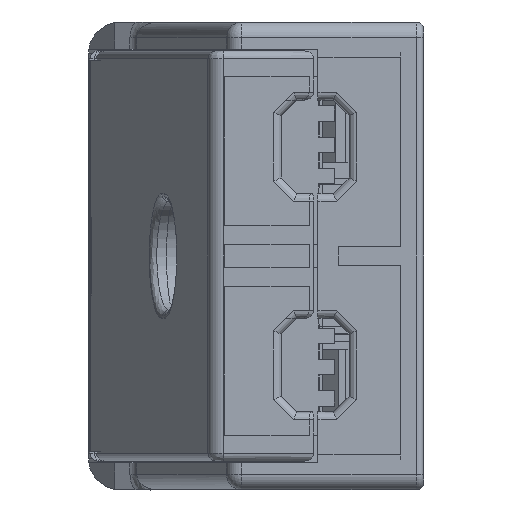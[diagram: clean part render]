
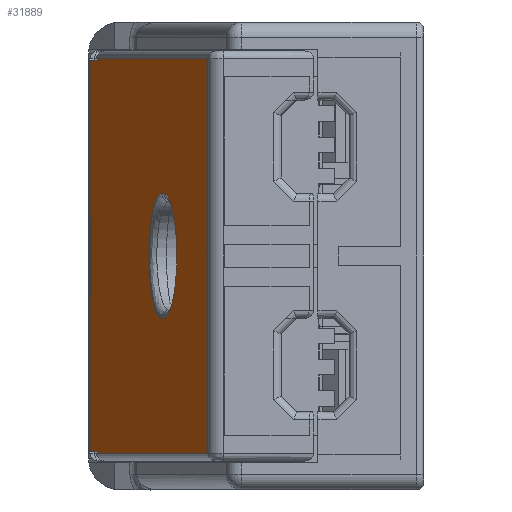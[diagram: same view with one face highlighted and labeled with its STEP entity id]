
A CAD part, left-side view. The second image highlights one B-rep face of the part: STEP entity #31889.
In plain terms, the highlighted planar face has unit normal (-0.196, 0.981, 0) as drawn and (0.201, 0.98, 0) by its records, which use the part's own axes.
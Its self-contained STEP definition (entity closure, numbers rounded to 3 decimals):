
#27551=DIRECTION('',(-0.98,0.201,0.));
#27552=VECTOR('',#27551,0.817);
#27553=CARTESIAN_POINT('',(4.95,6.536,4.));
#27554=LINE('',#27553,#27552);
#27555=CARTESIAN_POINT('',(4.95,6.536,
-4.));
#27556=CARTESIAN_POINT('',(5.217,6.481,
-4.));
#27557=CARTESIAN_POINT('',(5.738,6.374,
-3.948));
#27558=CARTESIAN_POINT('',(6.507,6.216,
-3.713));
#27559=CARTESIAN_POINT('',(7.205,6.073,
-3.335));
#27560=CARTESIAN_POINT('',(7.815,5.948,
-2.829));
#27561=CARTESIAN_POINT('',(8.31,5.847,
-2.217));
#27562=CARTESIAN_POINT('',(8.676,5.772,
-1.524));
#27563=CARTESIAN_POINT('',(8.9,5.726,
-0.776));
#27564=CARTESIAN_POINT('',(8.976,5.71,
0.));
#27565=CARTESIAN_POINT('',(8.9,5.726,
0.776));
#27566=CARTESIAN_POINT('',(8.676,5.772,1.524));
#27567=CARTESIAN_POINT('',(8.31,5.847,2.217));
#27568=CARTESIAN_POINT('',(7.815,5.948,2.829));
#27569=CARTESIAN_POINT('',(7.205,6.073,3.335));
#27570=CARTESIAN_POINT('',(6.508,6.216,3.713));
#27571=CARTESIAN_POINT('',(5.738,6.374,3.948));
#27572=CARTESIAN_POINT('',(5.217,6.481,4.));
#27573=CARTESIAN_POINT('',(4.95,6.536,4.));
#27575=DIRECTION('',(0.98,-0.201,0.));
#27576=VECTOR('',#27575,0.817);
#27577=CARTESIAN_POINT('',(4.15,6.7,
-4.));
#27578=LINE('',#27577,#27576);
#27579=CARTESIAN_POINT('',(4.15,6.7,4.));
#27580=CARTESIAN_POINT('',(3.884,6.754,4.));
#27581=CARTESIAN_POINT('',(3.363,6.861,3.948));
#27582=CARTESIAN_POINT('',(2.593,7.019,3.713));
#27583=CARTESIAN_POINT('',(1.896,7.162,3.335));
#27584=CARTESIAN_POINT('',(1.286,7.287,2.829));
#27585=CARTESIAN_POINT('',(0.791,7.389,
2.217));
#27586=CARTESIAN_POINT('',(0.425,7.464,
1.524));
#27587=CARTESIAN_POINT('',(0.201,7.51,
0.776));
#27588=CARTESIAN_POINT('',(0.125,7.526,
0.));
#27589=CARTESIAN_POINT('',(0.201,7.51,
-0.776));
#27590=CARTESIAN_POINT('',(0.425,7.464,
-1.524));
#27591=CARTESIAN_POINT('',(0.791,7.389,
-2.217));
#27592=CARTESIAN_POINT('',(1.286,7.287,
-2.829));
#27593=CARTESIAN_POINT('',(1.896,7.162,
-3.335));
#27594=CARTESIAN_POINT('',(2.593,7.019,
-3.713));
#27595=CARTESIAN_POINT('',(3.363,6.861,
-3.948));
#27596=CARTESIAN_POINT('',(3.884,6.754,
-4.));
#27597=CARTESIAN_POINT('',(4.15,6.7,
-4.));
#27599=DIRECTION('',(0.98,-0.201,0.));
#27600=VECTOR('',#27599,36.411);
#27601=CARTESIAN_POINT('',(-16.718,10.981,-12.65));
#27602=LINE('',#27601,#27600);
#27603=DIRECTION('',(0.,0.,1.));
#27604=VECTOR('',#27603,25.3);
#27605=CARTESIAN_POINT('',(18.951,3.664,-12.65));
#27606=LINE('',#27605,#27604);
#27607=DIRECTION('',(0.98,-0.201,0.));
#27608=VECTOR('',#27607,36.411);
#27609=CARTESIAN_POINT('',(-16.718,10.981,12.65));
#27610=LINE('',#27609,#27608);
#27611=DIRECTION('',(0.,0.,-1.));
#27612=VECTOR('',#27611,0.1);
#27613=CARTESIAN_POINT('',(-16.718,10.981,12.65));
#27614=LINE('',#27613,#27612);
#27615=DIRECTION('',(0.98,-0.201,0.));
#27616=VECTOR('',#27615,2.047);
#27617=CARTESIAN_POINT('',(-18.723,11.392,12.55));
#27618=LINE('',#27617,#27616);
#27619=DIRECTION('',(0.,0.,-1.));
#27620=VECTOR('',#27619,25.1);
#27621=CARTESIAN_POINT('',(-18.723,11.392,12.55));
#27622=LINE('',#27621,#27620);
#27623=DIRECTION('',(0.98,-0.201,0.));
#27624=VECTOR('',#27623,2.047);
#27625=CARTESIAN_POINT('',(-18.723,11.392,-12.55));
#27626=LINE('',#27625,#27624);
#27627=DIRECTION('',(0.,0.,1.));
#27628=VECTOR('',#27627,0.1);
#27629=CARTESIAN_POINT('',(-16.718,10.981,-12.65));
#27630=LINE('',#27629,#27628);
#29579=CARTESIAN_POINT('',(4.95,6.536,4.));
#29580=CARTESIAN_POINT('',(4.15,6.7,4.));
#29581=VERTEX_POINT('',#29579);
#29582=VERTEX_POINT('',#29580);
#29587=VERTEX_POINT('',#27597);
#29589=CARTESIAN_POINT('',(4.95,6.536,
-4.));
#29590=VERTEX_POINT('',#29589);
#29807=CARTESIAN_POINT('',(-18.723,11.392,-12.55));
#29808=CARTESIAN_POINT('',(-16.718,10.981,-12.55));
#29809=VERTEX_POINT('',#29807);
#29810=VERTEX_POINT('',#29808);
#29825=CARTESIAN_POINT('',(-16.718,10.981,12.55));
#29827=VERTEX_POINT('',#29825);
#29847=CARTESIAN_POINT('',(-18.723,11.392,12.55));
#29848=VERTEX_POINT('',#29847);
#29995=CARTESIAN_POINT('',(-16.718,10.981,-12.65));
#29997=VERTEX_POINT('',#29995);
#30001=CARTESIAN_POINT('',(18.951,3.664,-12.65));
#30002=VERTEX_POINT('',#30001);
#30042=CARTESIAN_POINT('',(-16.718,10.981,12.65));
#30044=VERTEX_POINT('',#30042);
#30045=CARTESIAN_POINT('',(18.951,3.664,12.65));
#30046=VERTEX_POINT('',#30045);
#31864=CARTESIAN_POINT('',(-19.25,11.5,13.15));
#31865=DIRECTION('',(-0.201,-0.98,0.));
#31866=DIRECTION('',(0.98,-0.201,0.));
#31867=AXIS2_PLACEMENT_3D('',#31864,#31865,#31866);
#31868=PLANE('',#31867);
#31869=ORIENTED_EDGE('',*,*,#31859,.T.);
#31870=ORIENTED_EDGE('',*,*,#31594,.T.);
#31871=ORIENTED_EDGE('',*,*,#31657,.F.);
#31872=ORIENTED_EDGE('',*,*,#31675,.T.);
#31873=ORIENTED_EDGE('',*,*,#31722,.F.);
#31874=ORIENTED_EDGE('',*,*,#30485,.T.);
#31875=ORIENTED_EDGE('',*,*,#31773,.T.);
#31876=ORIENTED_EDGE('',*,*,#31843,.F.);
#31877=EDGE_LOOP('',(#31869,#31870,#31871,#31872,#31873,#31874,#31875,#31876));
#31878=FACE_OUTER_BOUND('',#31877,.F.);
#31880=ORIENTED_EDGE('',*,*,#31879,.F.);
#31882=ORIENTED_EDGE('',*,*,#31881,.F.);
#31884=ORIENTED_EDGE('',*,*,#31883,.F.);
#31886=ORIENTED_EDGE('',*,*,#31885,.F.);
#31887=EDGE_LOOP('',(#31880,#31882,#31884,#31886));
#31888=FACE_BOUND('',#31887,.F.);
#27574=B_SPLINE_CURVE_WITH_KNOTS('',3,(#27555,#27556,#27557,#27558,#27559,
#27560,#27561,#27562,#27563,#27564,#27565,#27566,#27567,#27568,#27569,#27570,
#27571,#27572,#27573),.UNSPECIFIED.,.F.,.F.,(4,1,1,1,1,1,1,1,1,1,1,1,1,1,1,1,4),
(0.,0.063,0.125,0.188,0.25,0.313,0.375,0.438,0.5,0.563,
0.625,0.688,0.75,0.813,0.875,0.938,1.),.UNSPECIFIED.);
#27598=B_SPLINE_CURVE_WITH_KNOTS('',3,(#27579,#27580,#27581,#27582,#27583,
#27584,#27585,#27586,#27587,#27588,#27589,#27590,#27591,#27592,#27593,#27594,
#27595,#27596,#27597),.UNSPECIFIED.,.F.,.F.,(4,1,1,1,1,1,1,1,1,1,1,1,1,1,1,1,4),
(0.,0.063,0.125,0.188,0.25,0.313,0.375,0.438,0.5,0.563,
0.625,0.688,0.75,0.813,0.875,0.938,1.),.UNSPECIFIED.);
#30485=EDGE_CURVE('',#29848,#29809,#27622,.T.);
#31594=EDGE_CURVE('',#30002,#30046,#27606,.T.);
#31657=EDGE_CURVE('',#30044,#30046,#27610,.T.);
#31675=EDGE_CURVE('',#30044,#29827,#27614,.T.);
#31722=EDGE_CURVE('',#29848,#29827,#27618,.T.);
#31773=EDGE_CURVE('',#29809,#29810,#27626,.T.);
#31843=EDGE_CURVE('',#29997,#29810,#27630,.T.);
#31859=EDGE_CURVE('',#29997,#30002,#27602,.T.);
#31879=EDGE_CURVE('',#29581,#29582,#27554,.T.);
#31881=EDGE_CURVE('',#29590,#29581,#27574,.T.);
#31883=EDGE_CURVE('',#29587,#29590,#27578,.T.);
#31885=EDGE_CURVE('',#29582,#29587,#27598,.T.);
#31889=ADVANCED_FACE('',(#31878,#31888),#31868,.F.);
